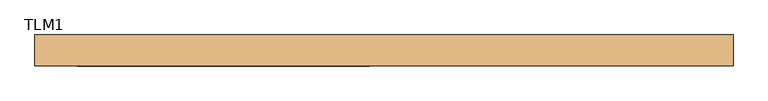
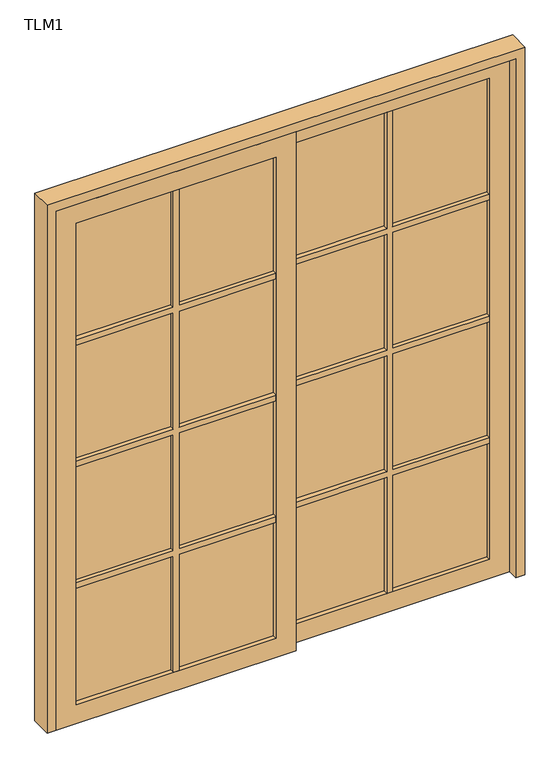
"""IFC4 building model written with IfcOpenShell, lengths in millimetres: door geometry, 双扇推拉门1 : TLM1."""

from ifc_helpers import new_model, si_unit, frame, origin, place, context, project, spatial, polyline, outline, extrude, source, transform, mapped, element, save


def tlm1_a8fbea2f(model_context):
    return source(origin(), model_context, "Body", "SweptSolid", [
        extrude(outline(polyline([(2065.0, 37.5), (2065.0, -865.0), (0.0, -865.0), (0.0, 37.5), (2065.0, 37.5)]), holes=[polyline([(1990.0, -37.5), (75.0, -37.5), (75.0, -790.0), (1990.0, -790.0), (1990.0, -37.5)])]), frame((0.0, -40.0, 0.0), z_axis=(0.0, 1.0, 0.0), x_axis=(0.0, 0.0, 1.0)), (0.0, 0.0, 1.0), 40.0),
        extrude(outline(polyline([(2065.0, 865.0), (2065.0, -37.5), (0.0, -37.5), (0.0, 865.0), (2065.0, 865.0)]), holes=[polyline([(75.0, 790.0), (75.0, 37.5), (1990.0, 37.5), (1990.0, 790.0), (75.0, 790.0)])]), frame((0.0, 0.0, 0.0), z_axis=(0.0, 1.0, 0.0), x_axis=(0.0, 0.0, 1.0)), (0.0, 0.0, 1.0), 40.0),
        extrude(outline(polyline([(790.0, 23.0), (790.0, 17.0), (424.75, 17.0), (424.75, 23.0), (790.0, 23.0)])), frame((0.0, 0.0, 1527.75), z_axis=(0.0, 0.0, 1.0), x_axis=(1.0, 0.0, 0.0)), (0.0, 0.0, 1.0), 462.25),
        extrude(outline(polyline([(402.75, 23.0), (402.75, 17.0), (37.5, 17.0), (37.5, 23.0), (402.75, 23.0)])), frame((0.0, 0.0, 1527.75), z_axis=(0.0, 0.0, 1.0), x_axis=(1.0, 0.0, 0.0)), (0.0, 0.0, 1.0), 462.25),
        extrude(outline(polyline([(790.0, 23.0), (790.0, 17.0), (424.75, 17.0), (424.75, 23.0), (790.0, 23.0)])), frame((0.0, 0.0, 1043.5), z_axis=(0.0, 0.0, 1.0), x_axis=(1.0, 0.0, 0.0)), (0.0, 0.0, 1.0), 462.25),
        extrude(outline(polyline([(402.75, 23.0), (402.75, 17.0), (37.5, 17.0), (37.5, 23.0), (402.75, 23.0)])), frame((0.0, 0.0, 1043.5), z_axis=(0.0, 0.0, 1.0), x_axis=(1.0, 0.0, 0.0)), (0.0, 0.0, 1.0), 462.25),
        extrude(outline(polyline([(790.0, 23.0), (790.0, 17.0), (424.75, 17.0), (424.75, 23.0), (790.0, 23.0)])), frame((0.0, 0.0, 559.25), z_axis=(0.0, 0.0, 1.0), x_axis=(1.0, 0.0, 0.0)), (0.0, 0.0, 1.0), 462.25),
        extrude(outline(polyline([(402.75, 23.0), (402.75, 17.0), (37.5, 17.0), (37.5, 23.0), (402.75, 23.0)])), frame((0.0, 0.0, 559.25), z_axis=(0.0, 0.0, 1.0), x_axis=(1.0, 0.0, 0.0)), (0.0, 0.0, 1.0), 462.25),
        extrude(outline(polyline([(790.0, 23.0), (790.0, 17.0), (424.75, 17.0), (424.75, 23.0), (790.0, 23.0)])), frame((0.0, 0.0, 75.0), z_axis=(0.0, 0.0, 1.0), x_axis=(1.0, 0.0, 0.0)), (0.0, 0.0, 1.0), 462.25),
        extrude(outline(polyline([(402.75, 23.0), (402.75, 17.0), (37.5, 17.0), (37.5, 23.0), (402.75, 23.0)])), frame((0.0, 0.0, 75.0), z_axis=(0.0, 0.0, 1.0), x_axis=(1.0, 0.0, 0.0)), (0.0, 0.0, 1.0), 462.25),
        extrude(outline(polyline([(-402.75, -23.0), (-402.75, -17.0), (-37.5, -17.0), (-37.5, -23.0), (-402.75, -23.0)])), frame((0.0, 0.0, 1527.75), z_axis=(0.0, 0.0, 1.0), x_axis=(1.0, 0.0, 0.0)), (0.0, 0.0, 1.0), 462.25),
        extrude(outline(polyline([(-790.0, -23.0), (-790.0, -17.0), (-424.75, -17.0), (-424.75, -23.0), (-790.0, -23.0)])), frame((0.0, 0.0, 1527.75), z_axis=(0.0, 0.0, 1.0), x_axis=(1.0, 0.0, 0.0)), (0.0, 0.0, 1.0), 462.25),
        extrude(outline(polyline([(-402.75, -23.0), (-402.75, -17.0), (-37.5, -17.0), (-37.5, -23.0), (-402.75, -23.0)])), frame((0.0, 0.0, 1043.5), z_axis=(0.0, 0.0, 1.0), x_axis=(1.0, 0.0, 0.0)), (0.0, 0.0, 1.0), 462.25),
        extrude(outline(polyline([(-790.0, -23.0), (-790.0, -17.0), (-424.75, -17.0), (-424.75, -23.0), (-790.0, -23.0)])), frame((0.0, 0.0, 1043.5), z_axis=(0.0, 0.0, 1.0), x_axis=(1.0, 0.0, 0.0)), (0.0, 0.0, 1.0), 462.25),
        extrude(outline(polyline([(-402.75, -23.0), (-402.75, -17.0), (-37.5, -17.0), (-37.5, -23.0), (-402.75, -23.0)])), frame((0.0, 0.0, 559.25), z_axis=(0.0, 0.0, 1.0), x_axis=(1.0, 0.0, 0.0)), (0.0, 0.0, 1.0), 462.25),
        extrude(outline(polyline([(-790.0, -23.0), (-790.0, -17.0), (-424.75, -17.0), (-424.75, -23.0), (-790.0, -23.0)])), frame((0.0, 0.0, 559.25), z_axis=(0.0, 0.0, 1.0), x_axis=(1.0, 0.0, 0.0)), (0.0, 0.0, 1.0), 462.25),
        extrude(outline(polyline([(-402.75, -23.0), (-402.75, -17.0), (-37.5, -17.0), (-37.5, -23.0), (-402.75, -23.0)])), frame((0.0, 0.0, 75.0), z_axis=(0.0, 0.0, 1.0), x_axis=(1.0, 0.0, 0.0)), (0.0, 0.0, 1.0), 462.25),
        extrude(outline(polyline([(-790.0, -23.0), (-790.0, -17.0), (-424.75, -17.0), (-424.75, -23.0), (-790.0, -23.0)])), frame((0.0, 0.0, 75.0), z_axis=(0.0, 0.0, 1.0), x_axis=(1.0, 0.0, 0.0)), (0.0, 0.0, 1.0), 462.25),
        extrude(outline(polyline([(1527.75, 424.75), (1990.0, 424.75), (1990.0, 402.75), (1527.75, 402.75), (1527.75, 37.5), (1505.75, 37.5), (1505.75, 402.75), (1043.5, 402.75), (1043.5, 37.5), (1021.5, 37.5), (1021.5, 402.75), (559.25, 402.75), (559.25, 37.5), (537.25, 37.5), (537.25, 402.75), (75.0, 402.75), (75.0, 424.75), (537.25, 424.75), (537.25, 790.0), (559.25, 790.0), (559.25, 424.75), (1021.5, 424.75), (1021.5, 790.0), (1043.5, 790.0), (1043.5, 424.75), (1505.75, 424.75), (1505.75, 790.0), (1527.75, 790.0), (1527.75, 424.75)])), frame((0.0, 0.0, 0.0), z_axis=(0.0, 1.0, 0.0), x_axis=(0.0, 0.0, 1.0)), (0.0, 0.0, 1.0), 40.0),
        extrude(outline(polyline([(1527.75, -402.75), (1990.0, -402.75), (1990.0, -424.75), (1527.75, -424.75), (1527.75, -790.0), (1505.75, -790.0), (1505.75, -424.75), (1043.5, -424.75), (1043.5, -790.0), (1021.5, -790.0), (1021.5, -424.75), (559.25, -424.75), (559.25, -790.0), (537.25, -790.0), (537.25, -424.75), (75.0, -424.75), (75.0, -402.75), (537.25, -402.75), (537.25, -37.5), (559.25, -37.5), (559.25, -402.75), (1021.5, -402.75), (1021.5, -37.5), (1043.5, -37.5), (1043.5, -402.75), (1505.75, -402.75), (1505.75, -37.5), (1527.75, -37.5), (1527.75, -402.75)])), frame((0.0, -40.0, 0.0), z_axis=(0.0, 1.0, 0.0), x_axis=(0.0, 0.0, 1.0)), (0.0, 0.0, 1.0), 40.0),
        extrude(outline(polyline([(0.0, 900.0), (2100.0, 900.0), (2100.0, -900.0), (0.0, -900.0), (0.0, -865.0), (2065.0, -865.0), (2065.0, 865.0), (0.0, 865.0), (0.0, 900.0)])), frame((0.0, -40.0, 0.0), z_axis=(0.0, 1.0, 0.0), x_axis=(0.0, 0.0, 1.0)), (0.0, 0.0, 1.0), 80.0),
    ])


if __name__ == "__main__":
    model = new_model("IFC4")
    model_context = context("Model", 3, world=origin())
    ifc_project = project(units=[si_unit("LENGTHUNIT", "METRE", prefix="MILLI")], contexts=[model_context])
    site = spatial("IfcSite", under=ifc_project)
    building = spatial("IfcBuilding", under=site)
    placement = place(None, origin())
    tlm1_shape = tlm1_a8fbea2f(model_context)
    element("IfcDoor", 1, ObjectType="双扇推拉门1 : TLM1", at=placement, inside=building, context=model_context, shape_type="MappedRepresentation", body=[
        mapped(tlm1_shape, transform((0.0, 0.0, 0.0), x_axis=(1.0, 0.0, 0.0), y_axis=(0.0, 1.0, 0.0), z_axis=(0.0, 0.0, 1.0))),
    ])
    save(model, "model.ifc")
